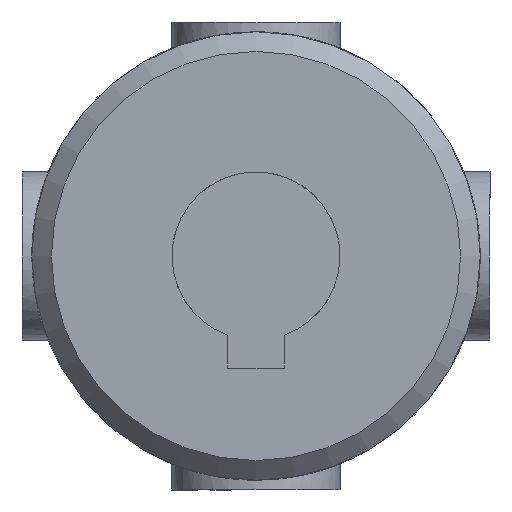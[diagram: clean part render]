
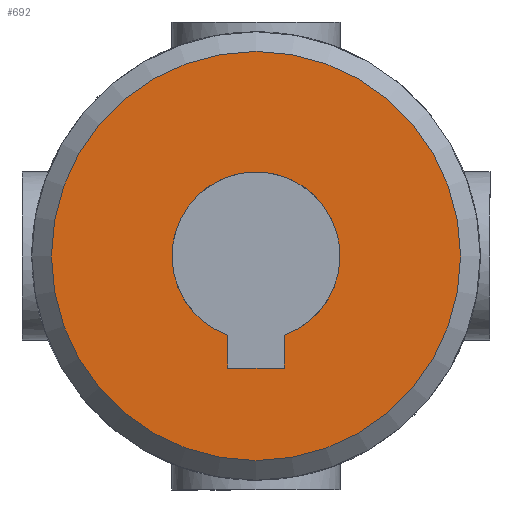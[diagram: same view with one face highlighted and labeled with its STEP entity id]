
A CAD part, front view. The second image highlights one B-rep face of the part: STEP entity #692.
In plain terms, the highlighted planar face has unit normal (0, -1, 0).
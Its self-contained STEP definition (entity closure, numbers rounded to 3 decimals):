
#80=LINE('',#1067,#111);
#82=LINE('',#1075,#113);
#84=LINE('',#1081,#115);
#111=VECTOR('',#873,1.172);
#113=VECTOR('',#877,2.);
#115=VECTOR('',#881,1.172);
#141=PLANE('',#754);
#166=FACE_BOUND('',#255,.T.);
#196=FACE_OUTER_BOUND('',#254,.T.);
#254=EDGE_LOOP('',(#552));
#255=EDGE_LOOP('',(#553,#554,#555,#556));
#299=CIRCLE('',#746,3.);
#301=CIRCLE('',#752,7.3);
#339=VERTEX_POINT('',#1056);
#340=VERTEX_POINT('',#1058);
#342=VERTEX_POINT('',#1066);
#344=VERTEX_POINT('',#1074);
#346=VERTEX_POINT('',#1085);
#411=EDGE_CURVE('',#340,#339,#299,.T.);
#414=EDGE_CURVE('',#342,#340,#80,.T.);
#417=EDGE_CURVE('',#344,#342,#82,.T.);
#420=EDGE_CURVE('',#339,#344,#84,.T.);
#422=EDGE_CURVE('',#346,#346,#301,.T.);
#552=ORIENTED_EDGE('',*,*,#422,.F.);
#553=ORIENTED_EDGE('',*,*,#411,.T.);
#554=ORIENTED_EDGE('',*,*,#420,.T.);
#555=ORIENTED_EDGE('',*,*,#417,.T.);
#556=ORIENTED_EDGE('',*,*,#414,.T.);
#692=ADVANCED_FACE('',(#196,#166),#141,.F.);
#746=AXIS2_PLACEMENT_3D('',#1059,#868,#869);
#752=AXIS2_PLACEMENT_3D('',#1086,#886,#887);
#754=AXIS2_PLACEMENT_3D('',#1254,#894,#895);
#868=DIRECTION('center_axis',(0.,1.,0.));
#869=DIRECTION('ref_axis',(-0.333,0.,0.943));
#873=DIRECTION('',(0.,0.,1.));
#877=DIRECTION('',(-1.,0.,0.));
#881=DIRECTION('',(0.,0.,-1.));
#886=DIRECTION('center_axis',(0.,1.,0.));
#887=DIRECTION('ref_axis',(1.,0.,0.));
#894=DIRECTION('center_axis',(0.,1.,0.));
#895=DIRECTION('ref_axis',(0.,0.,1.));
#1056=CARTESIAN_POINT('',(1.,-21.,-2.828));
#1058=CARTESIAN_POINT('',(-1.,-21.,-2.828));
#1059=CARTESIAN_POINT('Origin',(0.,-21.,0.));
#1066=CARTESIAN_POINT('',(-1.,-21.,-4.));
#1067=CARTESIAN_POINT('',(-1.,-21.,-2.));
#1074=CARTESIAN_POINT('',(1.,-21.,-4.));
#1075=CARTESIAN_POINT('',(0.5,-21.,-4.));
#1081=CARTESIAN_POINT('',(1.,-21.,-1.414));
#1085=CARTESIAN_POINT('',(-7.3,-21.,0.));
#1086=CARTESIAN_POINT('Origin',(0.,-21.,0.));
#1254=CARTESIAN_POINT('Origin',(0.,-21.,0.));
